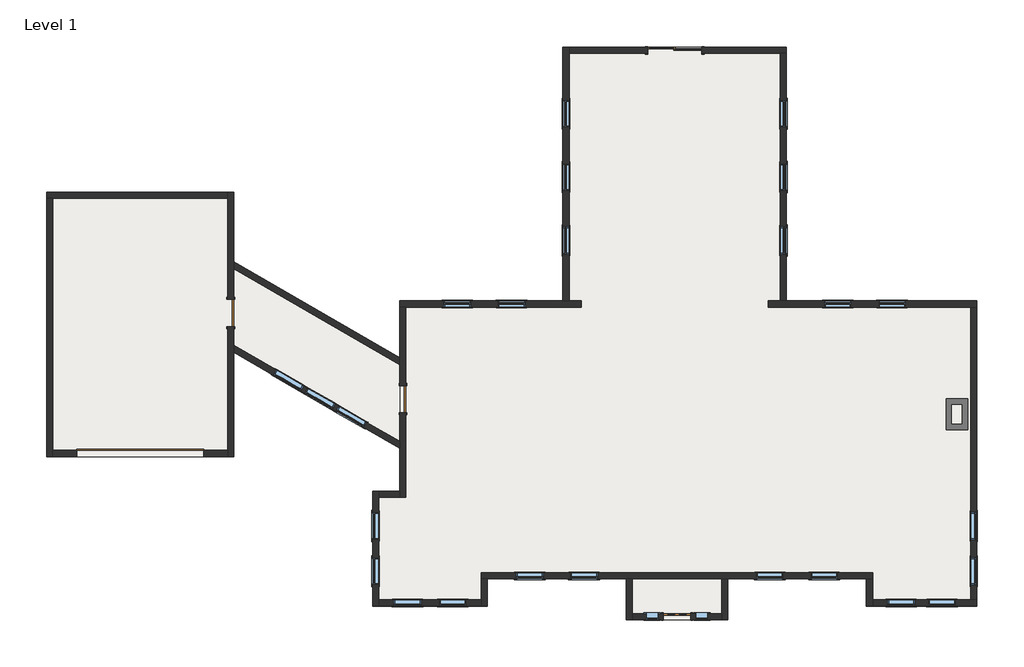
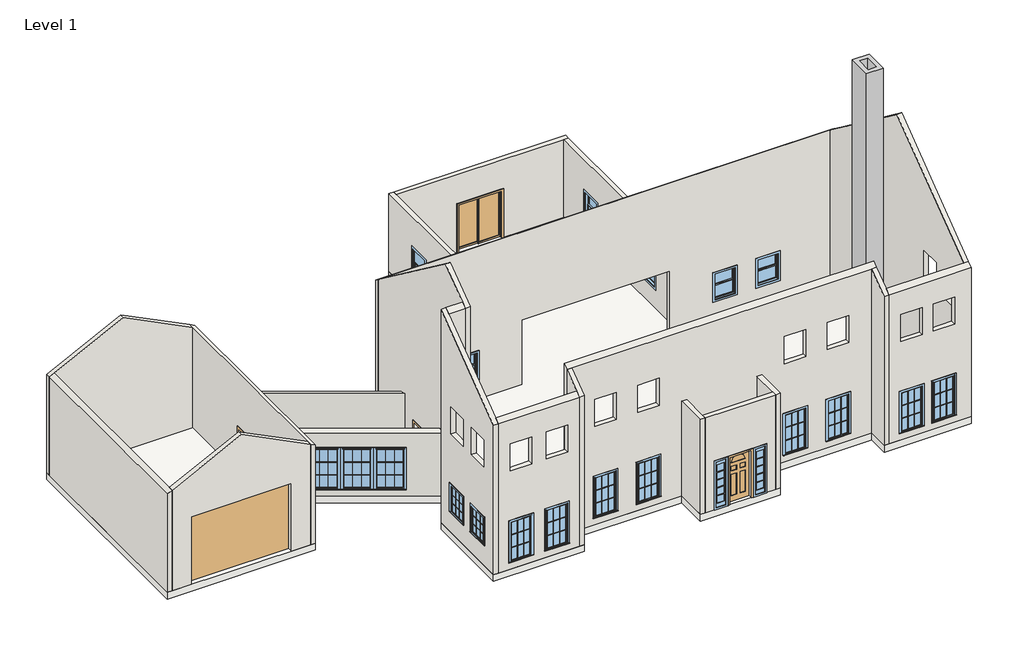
# One storey: 27 windows, 22 walls, 5 doors, 3 slabs, 1 proxy.
"""IFC4 building model written with IfcOpenShell, lengths in millimetres."""

from ifc_helpers import new_model, si_unit, frame, origin, place, context, project, spatial, polyline, outline, extrude, faceted_brep, transform, mapped, element, save
from components import chimney_chimney_af68f421, overhead_sectional_14_x_10_8c0ee61c, door_b1a02c97, door_4f2f89b6, door_f8fd2036, casement_3x3_with_trim_8b323df3, casement_3x3_with_trim_29c06734, casement_3x3_with_trim_7d330b5e, double_hung_with_trim_31198920, window_b28cb548, window_fc224a87

model = new_model("IFC4")

# Units and contexts
model_context = context("Model", 3, world=origin())
ifc_project = project(units=[si_unit("LENGTHUNIT", "METRE", prefix="MILLI")], contexts=[model_context])

# Site, building, storey
site = spatial("IfcSite", under=ifc_project)
building = spatial("IfcBuilding", under=site)
storey = spatial("IfcBuildingStorey", under=building, Name="Level 1", Elevation=0.0)

# Proxy
placement = place(None, origin())
chimney_chimney_shape = chimney_chimney_af68f421(model_context)
element("IfcBuildingElementProxy", 1, Name="chimney : chimney", ObjectType="chimney : chimney", at=placement, inside=storey, context=model_context, shape_type="MappedRepresentation", body=[
    mapped(chimney_chimney_shape, transform((0.0, 0.0, 0.0), x_axis=(1.0, 0.0, 0.0), y_axis=(0.0, 1.0, 0.0), z_axis=(0.0, 0.0, 1.0))),
])

# Doors
overhead_sectional_14_x_10_shape = overhead_sectional_14_x_10_8c0ee61c(model_context)
element("IfcDoor", 2, ObjectType="Overhead Sectional : 14 x 10", at=placement, inside=storey, context=model_context, shape_type="MappedRepresentation", body=[
    mapped(overhead_sectional_14_x_10_shape, transform((-185224.9354666, 11098.6757393, 0.0), x_axis=(-1.0, 0.0, 0.0), y_axis=(0.0, -1.0, 0.0), z_axis=(0.0, 0.0, 1.0))),
])
door_shape = door_b1a02c97(model_context)
element("IfcDoor", 3, ObjectType="Sample Decorative 2 : 36\" x 84\"", at=placement, inside=storey, context=model_context, shape_type="MappedRepresentation", body=[
    mapped(door_shape, transform((-167165.5354666, 5612.2757393, 0.0), x_axis=(1.0, 0.0, 0.0), y_axis=(0.0, 1.0, 0.0), z_axis=(0.0, 0.0, 1.0))),
])
door_2_shape = door_4f2f89b6(model_context)
element("IfcDoor", 4, ObjectType="Sgl Flush : 36\" x 80\"", at=placement, inside=storey, context=model_context, shape_type="MappedRepresentation", body=[
    mapped(door_2_shape, transform((-176385.7354666, 12927.4757393, 0.0), x_axis=(0.0, -1.0, 0.0), y_axis=(1.0, 0.0, 0.0), z_axis=(0.0, 0.0, 1.0))),
])
element("IfcDoor", 5, ObjectType="Sgl Flush : 36\" x 80\"", at=placement, inside=storey, context=model_context, shape_type="MappedRepresentation", body=[
    mapped(door_2_shape, transform((-182176.9354666, 15823.0757393, 0.0), x_axis=(0.0, -1.0, 0.0), y_axis=(1.0, 0.0, 0.0), z_axis=(0.0, 0.0, 1.0))),
])
door_3_shape = door_f8fd2036(model_context)
element("IfcDoor", 6, ObjectType="Sliding-2 panel : 72\" x 84\"", at=placement, inside=storey, context=model_context, shape_type="MappedRepresentation", body=[
    mapped(door_3_shape, transform((-167241.7354666, 24535.2757393, 0.0), x_axis=(1.0, 0.0, 0.0), y_axis=(0.0, 1.0, 0.0), z_axis=(0.0, 0.0, 1.0))),
])

# Slabs
element("IfcSlab", 7, ObjectType="Generic - 12\"", at=placement, inside=storey, context=model_context, shape_type="SweptSolid", body=[
    extrude(outline(polyline([(-188374.5354666, 19887.0757393), (-182075.3354666, 19887.0757393), (-182075.3354666, 10997.0757393), (-188374.5354666, 10997.0757393), (-188374.5354666, 19887.0757393)])), frame((0.0, 0.0, -304.8), z_axis=(0.0, 0.0, 1.0), x_axis=(1.0, 0.0, 0.0)), (0.0, 0.0, 1.0), 304.8),
])
element("IfcSlab", 8, ObjectType="Generic - 12\"", at=placement, inside=storey, context=model_context, shape_type="SweptSolid", body=[
    extrude(outline(polyline([(-182075.3354666, 17548.8854056), (-176487.3354666, 14322.6521013), (-176487.3354666, 11272.3951592), (-182075.3354666, 14498.6284634), (-182075.3354666, 17548.8854056)])), frame((0.0, 0.0, -304.8), z_axis=(0.0, 0.0, 1.0), x_axis=(1.0, 0.0, 0.0)), (0.0, 0.0, 1.0), 304.8),
])
element("IfcSlab", 9, ObjectType="Generic - 12\"", at=placement, inside=storey, context=model_context, shape_type="SweptSolid", body=[
    extrude(outline(polyline([(-171000.9354666, 16229.4757393), (-171000.9354666, 24763.8757393), (-163482.5354666, 24763.8757393), (-163482.5354666, 16229.4757393), (-157081.7354666, 16229.4757393), (-157081.7354666, 5967.8757393), (-160790.1354666, 5967.8757393), (-160790.1354666, 6882.2757393), (-165463.7354666, 6882.2757393), (-165463.7354666, 5510.6757393), (-168867.3354666, 5510.6757393), (-168867.3354666, 6882.2757393), (-173540.9354666, 6882.2757393), (-173540.9354666, 5967.8757393), (-177401.7354666, 5967.8757393), (-177401.7354666, 9828.6757393), (-176487.3354666, 9828.6757393), (-176487.3354666, 16229.4757393), (-171000.9354666, 16229.4757393)])), frame((0.0, 0.0, -304.8), z_axis=(0.0, 0.0, 1.0), x_axis=(1.0, 0.0, 0.0)), (0.0, 0.0, 1.0), 304.8),
])

# Walls
element("IfcWall", 10, ObjectType="Generic - 8\"", at=placement, inside=storey, context=model_context, shape_type="Brep", body=[
    faceted_brep([(-176487.3354666, 16026.2757393, 0.0), (-176284.1354666, 16026.2757393, 0.0), (-170391.3354666, 16026.2757393, 0.0), (-170391.3354666, 16026.2757393, 2895.6), (-164092.1354666, 16026.2757393, 2895.6), (-164092.1354666, 16026.2757393, 0.0), (-157284.9354666, 16026.2757393, 0.0), (-157081.7354666, 16026.2757393, 0.0), (-157081.7354666, 16026.2757393, 6858.0), (-157284.9354666, 16026.2757393, 6858.0), (-176284.1354666, 16026.2757393, 6858.0), (-176487.3354666, 16026.2757393, 6858.0), (-159469.3354666, 16026.2757393, 2133.6), (-159469.3354666, 16026.2757393, 914.4), (-160383.7354666, 16026.2757393, 914.4), (-160383.7354666, 16026.2757393, 2133.6), (-161298.1354666, 16026.2757393, 2133.6), (-161298.1354666, 16026.2757393, 914.4), (-162212.5354666, 16026.2757393, 914.4), (-162212.5354666, 16026.2757393, 2133.6), (-172270.9354666, 16026.2757393, 2133.6), (-172270.9354666, 16026.2757393, 914.4), (-173185.3354666, 16026.2757393, 914.4), (-173185.3354666, 16026.2757393, 2133.6), (-174099.7354666, 16026.2757393, 2133.6), (-174099.7354666, 16026.2757393, 914.4), (-175014.1354666, 16026.2757393, 914.4), (-175014.1354666, 16026.2757393, 2133.6), (-176487.3354666, 16229.4757393, 0.0), (-176487.3354666, 16229.4757393, 6705.6), (-157081.7354666, 16229.4757393, 6705.6), (-157081.7354666, 16229.4757393, 0.0), (-163482.5354666, 16229.4757393, 0.0), (-163685.7354666, 16229.4757393, 0.0), (-164092.1354666, 16229.4757393, 0.0), (-164092.1354666, 16229.4757393, 2895.6), (-170391.3354666, 16229.4757393, 2895.6), (-170391.3354666, 16229.4757393, 0.0), (-170797.7354666, 16229.4757393, 0.0), (-171000.9354666, 16229.4757393, 0.0), (-159469.3354666, 16229.4757393, 2133.6), (-160383.7354666, 16229.4757393, 2133.6), (-160383.7354666, 16229.4757393, 914.4), (-159469.3354666, 16229.4757393, 914.4), (-161298.1354666, 16229.4757393, 2133.6), (-162212.5354666, 16229.4757393, 2133.6), (-162212.5354666, 16229.4757393, 914.4), (-161298.1354666, 16229.4757393, 914.4), (-172270.9354666, 16229.4757393, 2133.6), (-173185.3354666, 16229.4757393, 2133.6), (-173185.3354666, 16229.4757393, 914.4), (-172270.9354666, 16229.4757393, 914.4), (-174099.7354666, 16229.4757393, 2133.6), (-175014.1354666, 16229.4757393, 2133.6), (-175014.1354666, 16229.4757393, 914.4), (-174099.7354666, 16229.4757393, 914.4)], [[[0, 1, 2, 3, 4, 5, 6, 7, 8, 9, 10, 11], [12, 13, 14, 15], [16, 17, 18, 19], [20, 21, 22, 23], [24, 25, 26, 27]], [[28, 29, 30, 31, 32, 33, 34, 35, 36, 37, 38, 39], [40, 41, 42, 43], [44, 45, 46, 47], [48, 49, 50, 51], [52, 53, 54, 55]], [[2, 1, 0, 28, 39, 38, 37]], [[0, 11, 29, 28]], [[3, 2, 37, 36]], [[4, 3, 36, 35]], [[5, 4, 35, 34]], [[7, 6, 5, 34, 33, 32, 31]], [[8, 7, 31, 30]], [[11, 10, 9, 8, 30, 29]], [[13, 12, 40, 43]], [[14, 13, 43, 42]], [[15, 14, 42, 41]], [[12, 15, 41, 40]], [[17, 16, 44, 47]], [[18, 17, 47, 46]], [[19, 18, 46, 45]], [[16, 19, 45, 44]], [[21, 20, 48, 51]], [[22, 21, 51, 50]], [[23, 22, 50, 49]], [[20, 23, 49, 48]], [[25, 24, 52, 55]], [[26, 25, 55, 54]], [[27, 26, 54, 53]], [[24, 27, 53, 52]]]),
])
element("IfcWall", 11, ObjectType="Generic - 8\"", at=placement, inside=storey, context=model_context, shape_type="Brep", body=[
    faceted_brep([(-176284.1354666, 9625.4757393, 0.0), (-176284.1354666, 12470.2757393, 0.0), (-176284.1354666, 12470.2757393, 2032.0), (-176284.1354666, 13384.6757393, 2032.0), (-176284.1354666, 13384.6757393, 0.0), (-176284.1354666, 16026.2757393, 0.0), (-176284.1354666, 16026.2757393, 6858.0), (-176284.1354666, 11098.6757393, 10553.7), (-176284.1354666, 9625.4757393, 9448.8), (-176487.3354666, 12470.2757393, 2032.0), (-176487.3354666, 12470.2757393, 0.0), (-176487.3354666, 11507.0303086, 0.0), (-176487.3354666, 11272.3951592, 0.0), (-176487.3354666, 9828.6757393, 0.0), (-176487.3354666, 9625.4757393, 0.0), (-176487.3354666, 9625.4757393, 9448.8), (-176487.3354666, 9828.6757393, 9601.2), (-176487.3354666, 11098.6757393, 10553.7), (-176487.3354666, 16026.2757393, 6858.0), (-176487.3354666, 16026.2757393, 0.0), (-176487.3354666, 14322.6521013, 0.0), (-176487.3354666, 14088.0169519, 0.0), (-176487.3354666, 13384.6757393, 0.0), (-176487.3354666, 13384.6757393, 2032.0)], [[[0, 1, 2, 3, 4, 5, 6, 7, 8]], [[9, 10, 11, 12, 13, 14, 15, 16, 17, 18, 19, 20, 21, 22, 23]], [[14, 13, 12, 11, 10, 1, 0]], [[22, 21, 20, 19, 5, 4]], [[6, 5, 19, 18]], [[0, 8, 15, 14]], [[8, 7, 17, 16, 15]], [[7, 6, 18, 17]], [[2, 1, 10, 9]], [[3, 2, 9, 23]], [[4, 3, 23, 22]]]),
])
element("IfcWall", 12, ObjectType="Generic - 8\"", at=placement, inside=storey, context=model_context, shape_type="Brep", body=[
    faceted_brep([(-160586.9354666, 7085.4757393, 0.0), (-173744.1354666, 7085.4757393, 0.0), (-173744.1354666, 7085.4757393, 7543.8), (-160586.9354666, 7085.4757393, 7543.8), (-162669.7354666, 7085.4757393, 5638.8), (-162669.7354666, 7085.4757393, 4419.6), (-161755.3354666, 7085.4757393, 4419.6), (-161755.3354666, 7085.4757393, 5638.8), (-164498.5354666, 7085.4757393, 5638.8), (-164498.5354666, 7085.4757393, 4419.6), (-163584.1354666, 7085.4757393, 4419.6), (-163584.1354666, 7085.4757393, 5638.8), (-170746.9354666, 7085.4757393, 5638.8), (-170746.9354666, 7085.4757393, 4419.6), (-169832.5354666, 7085.4757393, 4419.6), (-169832.5354666, 7085.4757393, 5638.8), (-172575.7354666, 7085.4757393, 5638.8), (-172575.7354666, 7085.4757393, 4419.6), (-171661.3354666, 7085.4757393, 4419.6), (-171661.3354666, 7085.4757393, 5638.8), (-162669.7354666, 7085.4757393, 2133.6), (-162669.7354666, 7085.4757393, 304.8), (-161755.3354666, 7085.4757393, 304.8), (-161755.3354666, 7085.4757393, 2133.6), (-164498.5354666, 7085.4757393, 2133.6), (-164498.5354666, 7085.4757393, 304.8), (-163584.1354666, 7085.4757393, 304.8), (-163584.1354666, 7085.4757393, 2133.6), (-170746.9354666, 7085.4757393, 2133.6), (-170746.9354666, 7085.4757393, 304.8), (-169832.5354666, 7085.4757393, 304.8), (-169832.5354666, 7085.4757393, 2133.6), (-172575.7354666, 7085.4757393, 2133.6), (-172575.7354666, 7085.4757393, 304.8), (-171661.3354666, 7085.4757393, 304.8), (-171661.3354666, 7085.4757393, 2133.6), (-160586.9354666, 6882.2757393, 0.0), (-160586.9354666, 6882.2757393, 7391.4), (-160790.1354666, 6882.2757393, 7391.4), (-173540.9354666, 6882.2757393, 7391.4), (-173744.1354666, 6882.2757393, 7391.4), (-173744.1354666, 6882.2757393, 0.0), (-173540.9354666, 6882.2757393, 0.0), (-168867.3354666, 6882.2757393, 0.0), (-168664.1354666, 6882.2757393, 0.0), (-165666.9354666, 6882.2757393, 0.0), (-165463.7354666, 6882.2757393, 0.0), (-160790.1354666, 6882.2757393, 0.0), (-162669.7354666, 6882.2757393, 5638.8), (-161755.3354666, 6882.2757393, 5638.8), (-161755.3354666, 6882.2757393, 4419.6), (-162669.7354666, 6882.2757393, 4419.6), (-164498.5354666, 6882.2757393, 5638.8), (-163584.1354666, 6882.2757393, 5638.8), (-163584.1354666, 6882.2757393, 4419.6), (-164498.5354666, 6882.2757393, 4419.6), (-170746.9354666, 6882.2757393, 5638.8), (-169832.5354666, 6882.2757393, 5638.8), (-169832.5354666, 6882.2757393, 4419.6), (-170746.9354666, 6882.2757393, 4419.6), (-172575.7354666, 6882.2757393, 5638.8), (-171661.3354666, 6882.2757393, 5638.8), (-171661.3354666, 6882.2757393, 4419.6), (-172575.7354666, 6882.2757393, 4419.6), (-162669.7354666, 6882.2757393, 2133.6), (-161755.3354666, 6882.2757393, 2133.6), (-161755.3354666, 6882.2757393, 304.8), (-162669.7354666, 6882.2757393, 304.8), (-164498.5354666, 6882.2757393, 2133.6), (-163584.1354666, 6882.2757393, 2133.6), (-163584.1354666, 6882.2757393, 304.8), (-164498.5354666, 6882.2757393, 304.8), (-170746.9354666, 6882.2757393, 2133.6), (-169832.5354666, 6882.2757393, 2133.6), (-169832.5354666, 6882.2757393, 304.8), (-170746.9354666, 6882.2757393, 304.8), (-172575.7354666, 6882.2757393, 2133.6), (-171661.3354666, 6882.2757393, 2133.6), (-171661.3354666, 6882.2757393, 304.8), (-172575.7354666, 6882.2757393, 304.8)], [[[0, 1, 2, 3], [4, 5, 6, 7], [8, 9, 10, 11], [12, 13, 14, 15], [16, 17, 18, 19], [20, 21, 22, 23], [24, 25, 26, 27], [28, 29, 30, 31], [32, 33, 34, 35]], [[36, 37, 38, 39, 40, 41, 42, 43, 44, 45, 46, 47], [48, 49, 50, 51], [52, 53, 54, 55], [56, 57, 58, 59], [60, 61, 62, 63], [64, 65, 66, 67], [68, 69, 70, 71], [72, 73, 74, 75], [76, 77, 78, 79]], [[1, 0, 36, 47, 46, 45, 44, 43, 42, 41]], [[2, 1, 41, 40]], [[0, 3, 37, 36]], [[3, 2, 40, 39, 38, 37]], [[5, 4, 48, 51]], [[6, 5, 51, 50]], [[7, 6, 50, 49]], [[4, 7, 49, 48]], [[9, 8, 52, 55]], [[10, 9, 55, 54]], [[11, 10, 54, 53]], [[8, 11, 53, 52]], [[13, 12, 56, 59]], [[14, 13, 59, 58]], [[15, 14, 58, 57]], [[12, 15, 57, 56]], [[17, 16, 60, 63]], [[18, 17, 63, 62]], [[19, 18, 62, 61]], [[16, 19, 61, 60]], [[21, 20, 64, 67]], [[22, 21, 67, 66]], [[23, 22, 66, 65]], [[20, 23, 65, 64]], [[25, 24, 68, 71]], [[26, 25, 71, 70]], [[27, 26, 70, 69]], [[24, 27, 69, 68]], [[29, 28, 72, 75]], [[30, 29, 75, 74]], [[31, 30, 74, 73]], [[28, 31, 73, 72]], [[33, 32, 76, 79]], [[34, 33, 79, 78]], [[35, 34, 78, 77]], [[32, 35, 77, 76]]]),
])
element("IfcWall", 13, ObjectType="Generic - 8\"", at=placement, inside=storey, context=model_context, shape_type="Brep", body=[
    faceted_brep([(-177198.5354666, 5967.8757393, 0.0), (-177198.5354666, 6171.0757393, 0.0), (-177198.5354666, 9625.4757393, 0.0), (-177198.5354666, 9828.6757393, 0.0), (-177198.5354666, 9828.6757393, 9601.2), (-177198.5354666, 9625.4757393, 9448.8), (-177198.5354666, 6171.0757393, 6858.0), (-177198.5354666, 5967.8757393, 6705.6), (-177198.5354666, 9117.4757393, 2133.6), (-177198.5354666, 9117.4757393, 914.4), (-177198.5354666, 8203.0757393, 914.4), (-177198.5354666, 8203.0757393, 2133.6), (-177198.5354666, 7593.4757393, 2133.6), (-177198.5354666, 7593.4757393, 914.4), (-177198.5354666, 6679.0757393, 914.4), (-177198.5354666, 6679.0757393, 2133.6), (-177198.5354666, 9117.4757393, 5638.8), (-177198.5354666, 9117.4757393, 4419.6), (-177198.5354666, 8203.0757393, 4419.6), (-177198.5354666, 8203.0757393, 5638.8), (-177198.5354666, 7593.4757393, 5638.8), (-177198.5354666, 7593.4757393, 4419.6), (-177198.5354666, 6679.0757393, 4419.6), (-177198.5354666, 6679.0757393, 5638.8), (-177401.7354666, 5967.8757393, 0.0), (-177401.7354666, 5967.8757393, 6705.6), (-177401.7354666, 9828.6757393, 9601.2), (-177401.7354666, 9828.6757393, 0.0), (-177401.7354666, 9117.4757393, 2133.6), (-177401.7354666, 8203.0757393, 2133.6), (-177401.7354666, 8203.0757393, 914.4), (-177401.7354666, 9117.4757393, 914.4), (-177401.7354666, 7593.4757393, 2133.6), (-177401.7354666, 6679.0757393, 2133.6), (-177401.7354666, 6679.0757393, 914.4), (-177401.7354666, 7593.4757393, 914.4), (-177401.7354666, 9117.4757393, 5638.8), (-177401.7354666, 8203.0757393, 5638.8), (-177401.7354666, 8203.0757393, 4419.6), (-177401.7354666, 9117.4757393, 4419.6), (-177401.7354666, 7593.4757393, 5638.8), (-177401.7354666, 6679.0757393, 5638.8), (-177401.7354666, 6679.0757393, 4419.6), (-177401.7354666, 7593.4757393, 4419.6)], [[[0, 1, 2, 3, 4, 5, 6, 7], [8, 9, 10, 11], [12, 13, 14, 15], [16, 17, 18, 19], [20, 21, 22, 23]], [[24, 25, 26, 27], [28, 29, 30, 31], [32, 33, 34, 35], [36, 37, 38, 39], [40, 41, 42, 43]], [[3, 2, 1, 0, 24, 27]], [[4, 3, 27, 26]], [[0, 7, 25, 24]], [[7, 6, 5, 4, 26, 25]], [[9, 8, 28, 31]], [[10, 9, 31, 30]], [[11, 10, 30, 29]], [[8, 11, 29, 28]], [[13, 12, 32, 35]], [[14, 13, 35, 34]], [[15, 14, 34, 33]], [[12, 15, 33, 32]], [[17, 16, 36, 39]], [[18, 17, 39, 38]], [[19, 18, 38, 37]], [[16, 19, 37, 36]], [[21, 20, 40, 43]], [[22, 21, 43, 42]], [[23, 22, 42, 41]], [[20, 23, 41, 40]]]),
])
element("IfcWall", 14, ObjectType="Generic - 8\"", at=placement, inside=storey, context=model_context, shape_type="SweptSolid", body=[
    extrude(outline(polyline([(9625.4757393, 0.0), (9625.4757393, 9448.8), (9828.6757393, 9601.2), (9828.6757393, 0.0), (9625.4757393, 0.0)])), frame((-177198.5354666, 0.0, 0.0), z_axis=(1.0, 0.0, 0.0), x_axis=(0.0, 1.0, 0.0)), (0.0, 0.0, 1.0), 711.2),
])
element("IfcWall", 15, ObjectType="Generic - 8\"", at=placement, inside=storey, context=model_context, shape_type="SweptSolid", body=[
    extrude(outline(polyline([(16026.2757393, 0.0), (6171.0757393, 0.0), (6171.0757393, 6858.0), (11098.6757393, 10553.7), (16026.2757393, 6858.0), (16026.2757393, 0.0)]), holes=[polyline([(8203.0757393, 2133.6), (8203.0757393, 914.4), (9117.4757393, 914.4), (9117.4757393, 2133.6), (8203.0757393, 2133.6)]), polyline([(6679.0757393, 2133.6), (6679.0757393, 914.4), (7593.4757393, 914.4), (7593.4757393, 2133.6), (6679.0757393, 2133.6)]), polyline([(8203.0757393, 5638.8), (8203.0757393, 4419.6), (9117.4757393, 4419.6), (9117.4757393, 5638.8), (8203.0757393, 5638.8)]), polyline([(6679.0757393, 5638.8), (6679.0757393, 4419.6), (7593.4757393, 4419.6), (7593.4757393, 5638.8), (6679.0757393, 5638.8)])]), frame((-157284.9354666, 0.0, 0.0), z_axis=(1.0, 0.0, 0.0), x_axis=(0.0, 1.0, 0.0)), (0.0, 0.0, 1.0), 203.2),
])
element("IfcWall", 16, ObjectType="Generic - 8\"", at=placement, inside=storey, context=model_context, shape_type="Brep", body=[
    faceted_brep([(-173744.1354666, 6882.2757393, 0.0), (-173744.1354666, 6171.0757393, 0.0), (-173744.1354666, 5967.8757393, 0.0), (-173744.1354666, 5967.8757393, 6705.6), (-173744.1354666, 6171.0757393, 6858.0), (-173744.1354666, 6882.2757393, 7391.4), (-173540.9354666, 6882.2757393, 0.0), (-173540.9354666, 6882.2757393, 7391.4), (-173540.9354666, 5967.8757393, 6705.6), (-173540.9354666, 5967.8757393, 0.0)], [[[0, 1, 2, 3, 4, 5]], [[6, 7, 8, 9]], [[2, 1, 0, 6, 9]], [[3, 2, 9, 8]], [[0, 5, 7, 6]], [[5, 4, 3, 8, 7]]]),
])
element("IfcWall", 17, ObjectType="Generic - 8\"", at=placement, inside=storey, context=model_context, shape_type="Brep", body=[
    faceted_brep([(-173744.1354666, 6171.0757393, 0.0), (-177198.5354666, 6171.0757393, 0.0), (-177198.5354666, 6171.0757393, 6858.0), (-173744.1354666, 6171.0757393, 6858.0), (-175166.5354666, 6171.0757393, 5638.8), (-175166.5354666, 6171.0757393, 4419.6), (-174252.1354666, 6171.0757393, 4419.6), (-174252.1354666, 6171.0757393, 5638.8), (-176690.5354666, 6171.0757393, 5638.8), (-176690.5354666, 6171.0757393, 4419.6), (-175776.1354666, 6171.0757393, 4419.6), (-175776.1354666, 6171.0757393, 5638.8), (-175166.5354666, 6171.0757393, 2133.6), (-175166.5354666, 6171.0757393, 304.8), (-174252.1354666, 6171.0757393, 304.8), (-174252.1354666, 6171.0757393, 2133.6), (-176690.5354666, 6171.0757393, 2133.6), (-176690.5354666, 6171.0757393, 304.8), (-175776.1354666, 6171.0757393, 304.8), (-175776.1354666, 6171.0757393, 2133.6), (-173744.1354666, 5967.8757393, 0.0), (-173744.1354666, 5967.8757393, 6705.6), (-177198.5354666, 5967.8757393, 6705.6), (-177198.5354666, 5967.8757393, 0.0), (-175166.5354666, 5967.8757393, 5638.8), (-174252.1354666, 5967.8757393, 5638.8), (-174252.1354666, 5967.8757393, 4419.6), (-175166.5354666, 5967.8757393, 4419.6), (-176690.5354666, 5967.8757393, 5638.8), (-175776.1354666, 5967.8757393, 5638.8), (-175776.1354666, 5967.8757393, 4419.6), (-176690.5354666, 5967.8757393, 4419.6), (-175166.5354666, 5967.8757393, 2133.6), (-174252.1354666, 5967.8757393, 2133.6), (-174252.1354666, 5967.8757393, 304.8), (-175166.5354666, 5967.8757393, 304.8), (-176690.5354666, 5967.8757393, 2133.6), (-175776.1354666, 5967.8757393, 2133.6), (-175776.1354666, 5967.8757393, 304.8), (-176690.5354666, 5967.8757393, 304.8)], [[[0, 1, 2, 3], [4, 5, 6, 7], [8, 9, 10, 11], [12, 13, 14, 15], [16, 17, 18, 19]], [[20, 21, 22, 23], [24, 25, 26, 27], [28, 29, 30, 31], [32, 33, 34, 35], [36, 37, 38, 39]], [[1, 0, 20, 23]], [[0, 3, 21, 20]], [[2, 1, 23, 22]], [[3, 2, 22, 21]], [[5, 4, 24, 27]], [[6, 5, 27, 26]], [[7, 6, 26, 25]], [[4, 7, 25, 24]], [[9, 8, 28, 31]], [[10, 9, 31, 30]], [[11, 10, 30, 29]], [[8, 11, 29, 28]], [[13, 12, 32, 35]], [[14, 13, 35, 34]], [[15, 14, 34, 33]], [[12, 15, 33, 32]], [[17, 16, 36, 39]], [[18, 17, 39, 38]], [[19, 18, 38, 37]], [[16, 19, 37, 36]]]),
])
element("IfcWall", 18, ObjectType="Generic - 8\"", at=placement, inside=storey, context=model_context, shape_type="Brep", body=[
    faceted_brep([(-160790.1354666, 6882.2757393, 0.0), (-160790.1354666, 5967.8757393, 0.0), (-160790.1354666, 5967.8757393, 6705.6), (-160790.1354666, 6882.2757393, 7391.4), (-160586.9354666, 6882.2757393, 0.0), (-160586.9354666, 6882.2757393, 7391.4), (-160586.9354666, 6171.0757393, 6858.0), (-160586.9354666, 5967.8757393, 6705.6), (-160586.9354666, 5967.8757393, 0.0), (-160586.9354666, 6171.0757393, 0.0)], [[[0, 1, 2, 3]], [[4, 5, 6, 7, 8, 9]], [[1, 0, 4, 9, 8]], [[2, 1, 8, 7]], [[0, 3, 5, 4]], [[3, 2, 7, 6, 5]]]),
])
element("IfcWall", 19, ObjectType="Generic - 8\"", at=placement, inside=storey, context=model_context, shape_type="Brep", body=[
    faceted_brep([(-160586.9354666, 5967.8757393, 0.0), (-157081.7354666, 5967.8757393, 0.0), (-157081.7354666, 5967.8757393, 6705.6), (-160586.9354666, 5967.8757393, 6705.6), (-158707.3354666, 5967.8757393, 5638.8), (-157792.9354666, 5967.8757393, 5638.8), (-157792.9354666, 5967.8757393, 4419.6), (-158707.3354666, 5967.8757393, 4419.6), (-160078.9354666, 5967.8757393, 5638.8), (-159164.5354666, 5967.8757393, 5638.8), (-159164.5354666, 5967.8757393, 4419.6), (-160078.9354666, 5967.8757393, 4419.6), (-158707.3354666, 5967.8757393, 2133.6), (-157792.9354666, 5967.8757393, 2133.6), (-157792.9354666, 5967.8757393, 304.8), (-158707.3354666, 5967.8757393, 304.8), (-160078.9354666, 5967.8757393, 2133.6), (-159164.5354666, 5967.8757393, 2133.6), (-159164.5354666, 5967.8757393, 304.8), (-160078.9354666, 5967.8757393, 304.8), (-160586.9354666, 6171.0757393, 0.0), (-160586.9354666, 6171.0757393, 6858.0), (-157284.9354666, 6171.0757393, 6858.0), (-157081.7354666, 6171.0757393, 6858.0), (-157081.7354666, 6171.0757393, 0.0), (-157284.9354666, 6171.0757393, 0.0), (-158707.3354666, 6171.0757393, 5638.8), (-158707.3354666, 6171.0757393, 4419.6), (-157792.9354666, 6171.0757393, 4419.6), (-157792.9354666, 6171.0757393, 5638.8), (-160078.9354666, 6171.0757393, 5638.8), (-160078.9354666, 6171.0757393, 4419.6), (-159164.5354666, 6171.0757393, 4419.6), (-159164.5354666, 6171.0757393, 5638.8), (-158707.3354666, 6171.0757393, 2133.6), (-158707.3354666, 6171.0757393, 304.8), (-157792.9354666, 6171.0757393, 304.8), (-157792.9354666, 6171.0757393, 2133.6), (-160078.9354666, 6171.0757393, 2133.6), (-160078.9354666, 6171.0757393, 304.8), (-159164.5354666, 6171.0757393, 304.8), (-159164.5354666, 6171.0757393, 2133.6)], [[[0, 1, 2, 3], [4, 5, 6, 7], [8, 9, 10, 11], [12, 13, 14, 15], [16, 17, 18, 19]], [[20, 21, 22, 23, 24, 25], [26, 27, 28, 29], [30, 31, 32, 33], [34, 35, 36, 37], [38, 39, 40, 41]], [[1, 0, 20, 25, 24]], [[0, 3, 21, 20]], [[2, 1, 24, 23]], [[3, 2, 23, 22, 21]], [[27, 26, 4, 7]], [[28, 27, 7, 6]], [[29, 28, 6, 5]], [[26, 29, 5, 4]], [[31, 30, 8, 11]], [[32, 31, 11, 10]], [[33, 32, 10, 9]], [[30, 33, 9, 8]], [[35, 34, 12, 15]], [[36, 35, 15, 14]], [[37, 36, 14, 13]], [[34, 37, 13, 12]], [[39, 38, 16, 19]], [[40, 39, 19, 18]], [[41, 40, 18, 17]], [[38, 41, 17, 16]]]),
])
element("IfcWall", 20, ObjectType="Generic - 8\"", at=placement, inside=storey, context=model_context, shape_type="Brep", body=[
    faceted_brep([(-168867.3354666, 6882.2757393, 0.0), (-168867.3354666, 5510.6757393, 0.0), (-168867.3354666, 5510.6757393, 4267.2), (-168867.3354666, 6882.2757393, 4267.2), (-168664.1354666, 6882.2757393, 0.0), (-168664.1354666, 6882.2757393, 4267.2), (-168664.1354666, 5713.8757393, 4267.2), (-168664.1354666, 5510.6757393, 4267.2), (-168664.1354666, 5510.6757393, 0.0), (-168664.1354666, 5713.8757393, 0.0)], [[[0, 1, 2, 3]], [[4, 5, 6, 7, 8, 9]], [[1, 0, 4, 9, 8]], [[3, 2, 7, 6, 5]], [[2, 1, 8, 7]], [[0, 3, 5, 4]]]),
])
element("IfcWall", 21, ObjectType="Generic - 8\"", at=placement, inside=storey, context=model_context, shape_type="Brep", body=[
    faceted_brep([(-165666.9354666, 6882.2757393, 0.0), (-165666.9354666, 5713.8757393, 0.0), (-165666.9354666, 5510.6757393, 0.0), (-165666.9354666, 5510.6757393, 4267.2), (-165666.9354666, 5713.8757393, 4267.2), (-165666.9354666, 6882.2757393, 4267.2), (-165463.7354666, 6882.2757393, 0.0), (-165463.7354666, 6882.2757393, 4267.2), (-165463.7354666, 5510.6757393, 4267.2), (-165463.7354666, 5510.6757393, 0.0)], [[[0, 1, 2, 3, 4, 5]], [[6, 7, 8, 9]], [[2, 1, 0, 6, 9]], [[5, 4, 3, 8, 7]], [[3, 2, 9, 8]], [[0, 5, 7, 6]]]),
])
element("IfcWall", 22, ObjectType="Generic - 8\"", at=placement, inside=storey, context=model_context, shape_type="SweptSolid", body=[
    extrude(outline(polyline([(0.0, -166708.3354666), (0.0, -166530.5354666), (2133.6, -166530.5354666), (2133.6, -166124.1354666), (0.0, -166124.1354666), (0.0, -165666.9354666), (4267.2, -165666.9354666), (4267.2, -168664.1354666), (0.0, -168664.1354666), (0.0, -168206.9354666), (2133.6, -168206.9354666), (2133.6, -167800.5354666), (0.0, -167800.5354666), (0.0, -167622.7354666), (2133.6, -167622.7354666), (2133.6, -166708.3354666), (0.0, -166708.3354666)])), frame((0.0, 5510.6757393, 0.0), z_axis=(0.0, 1.0, 0.0), x_axis=(0.0, 0.0, 1.0)), (0.0, 0.0, 1.0), 203.2),
])
element("IfcWall", 23, ObjectType="Generic - 8\"", at=placement, inside=storey, context=model_context, shape_type="Brep", body=[
    faceted_brep([(-170797.7354666, 16229.4757393, 3505.2), (-170797.7354666, 24560.6757393, 3505.2), (-170797.7354666, 24763.8757393, 3505.2), (-171000.9354666, 24763.8757393, 3505.2), (-171000.9354666, 16229.4757393, 3505.2), (-170797.7354666, 16229.4757393, 0.0), (-170797.7354666, 24560.6757393, 0.0), (-170797.7354666, 24763.8757393, 0.0), (-170797.7354666, 22985.8757393, 2133.6), (-170797.7354666, 22985.8757393, 914.4), (-170797.7354666, 22071.4757393, 914.4), (-170797.7354666, 22071.4757393, 2133.6), (-170797.7354666, 20852.2757393, 2133.6), (-170797.7354666, 20852.2757393, 914.4), (-170797.7354666, 19937.8757393, 914.4), (-170797.7354666, 19937.8757393, 2133.6), (-170797.7354666, 18718.6757393, 2133.6), (-170797.7354666, 18718.6757393, 914.4), (-170797.7354666, 17804.2757393, 914.4), (-170797.7354666, 17804.2757393, 2133.6), (-171000.9354666, 16229.4757393, 0.0), (-171000.9354666, 24763.8757393, 0.0), (-171000.9354666, 22985.8757393, 2133.6), (-171000.9354666, 22071.4757393, 2133.6), (-171000.9354666, 22071.4757393, 914.4), (-171000.9354666, 22985.8757393, 914.4), (-171000.9354666, 20852.2757393, 2133.6), (-171000.9354666, 19937.8757393, 2133.6), (-171000.9354666, 19937.8757393, 914.4), (-171000.9354666, 20852.2757393, 914.4), (-171000.9354666, 18718.6757393, 2133.6), (-171000.9354666, 17804.2757393, 2133.6), (-171000.9354666, 17804.2757393, 914.4), (-171000.9354666, 18718.6757393, 914.4)], [[[0, 1, 2, 3, 4]], [[5, 6, 7, 2, 1, 0], [8, 9, 10, 11], [12, 13, 14, 15], [16, 17, 18, 19]], [[20, 4, 3, 21], [22, 23, 24, 25], [26, 27, 28, 29], [30, 31, 32, 33]], [[7, 6, 5, 20, 21]], [[5, 0, 4, 20]], [[2, 7, 21, 3]], [[9, 8, 22, 25]], [[10, 9, 25, 24]], [[11, 10, 24, 23]], [[8, 11, 23, 22]], [[13, 12, 26, 29]], [[14, 13, 29, 28]], [[15, 14, 28, 27]], [[12, 15, 27, 26]], [[17, 16, 30, 33]], [[18, 17, 33, 32]], [[19, 18, 32, 31]], [[16, 19, 31, 30]]]),
])
element("IfcWall", 24, ObjectType="Generic - 8\"", at=placement, inside=storey, context=model_context, shape_type="Brep", body=[
    faceted_brep([(-170797.7354666, 24560.6757393, 3505.2), (-163685.7354666, 24560.6757393, 3505.2), (-163482.5354666, 24560.6757393, 3505.2), (-163482.5354666, 24763.8757393, 3505.2), (-170797.7354666, 24763.8757393, 3505.2), (-166327.3354666, 24560.6757393, 2133.6), (-166327.3354666, 24560.6757393, 0.0), (-163685.7354666, 24560.6757393, 0.0), (-163482.5354666, 24560.6757393, 0.0), (-170797.7354666, 24560.6757393, 0.0), (-168156.1354666, 24560.6757393, 0.0), (-168156.1354666, 24560.6757393, 2133.6), (-163482.5354666, 24763.8757393, 0.0), (-166327.3354666, 24763.8757393, 0.0), (-166327.3354666, 24763.8757393, 2133.6), (-168156.1354666, 24763.8757393, 2133.6), (-168156.1354666, 24763.8757393, 0.0), (-170797.7354666, 24763.8757393, 0.0)], [[[0, 1, 2, 3, 4]], [[5, 6, 7, 8, 2, 1, 0, 9, 10, 11]], [[12, 13, 14, 15, 16, 17, 4, 3]], [[8, 7, 6, 13, 12]], [[10, 9, 17, 16]], [[9, 0, 4, 17]], [[2, 8, 12, 3]], [[16, 15, 11, 10]], [[14, 13, 6, 5]], [[15, 14, 5, 11]]]),
])
element("IfcWall", 25, ObjectType="Generic - 8\"", at=placement, inside=storey, context=model_context, shape_type="SweptSolid", body=[
    extrude(outline(polyline([(16229.4757393, 0.0), (16229.4757393, 3505.2), (24560.6757393, 3505.2), (24560.6757393, 0.0), (16229.4757393, 0.0)]), holes=[polyline([(17804.2757393, 2133.6), (17804.2757393, 914.4), (18718.6757393, 914.4), (18718.6757393, 2133.6), (17804.2757393, 2133.6)]), polyline([(19937.8757393, 2133.6), (19937.8757393, 914.4), (20852.2757393, 914.4), (20852.2757393, 2133.6), (19937.8757393, 2133.6)]), polyline([(22071.4757393, 2133.6), (22071.4757393, 914.4), (22985.8757393, 914.4), (22985.8757393, 2133.6), (22071.4757393, 2133.6)])]), frame((-163685.7354666, 0.0, 0.0), z_axis=(1.0, 0.0, 0.0), x_axis=(0.0, 1.0, 0.0)), (0.0, 0.0, 1.0), 203.2),
])
element("IfcWall", 26, ObjectType="Generic - 8\"", at=placement, inside=storey, context=model_context, shape_type="Brep", body=[
    faceted_brep([(-188374.5354666, 19683.8757393, 0.0), (-188171.3354666, 19683.8757393, 0.0), (-182278.5354666, 19683.8757393, 0.0), (-182278.5354666, 19683.8757393, 4521.2), (-185224.9354666, 19683.8757393, 5994.4), (-188171.3354666, 19683.8757393, 4521.2), (-188374.5354666, 19683.8757393, 4419.6), (-188374.5354666, 19887.0757393, 0.0), (-188374.5354666, 19887.0757393, 4419.6), (-185224.9354666, 19887.0757393, 5994.4), (-182278.5354666, 19887.0757393, 4521.2), (-182278.5354666, 19887.0757393, 0.0)], [[[0, 1, 2, 3, 4, 5, 6]], [[7, 8, 9, 10, 11]], [[2, 1, 0, 7, 11]], [[0, 6, 8, 7]], [[3, 2, 11, 10]], [[6, 5, 4, 9, 8]], [[4, 3, 10, 9]]]),
])
element("IfcWall", 27, ObjectType="Generic - 8\"", at=placement, inside=storey, context=model_context, shape_type="Brep", body=[
    faceted_brep([(-188171.3354666, 10997.0757393, 0.0), (-188171.3354666, 11200.2757393, 0.0), (-188171.3354666, 19683.8757393, 0.0), (-188171.3354666, 19683.8757393, 4521.2), (-188171.3354666, 11200.2757393, 4521.2), (-188171.3354666, 10997.0757393, 4521.2), (-188374.5354666, 10997.0757393, 0.0), (-188374.5354666, 10997.0757393, 4419.6), (-188374.5354666, 19683.8757393, 4419.6), (-188374.5354666, 19683.8757393, 0.0)], [[[0, 1, 2, 3, 4, 5]], [[6, 7, 8, 9]], [[2, 1, 0, 6, 9]], [[0, 5, 7, 6]], [[3, 2, 9, 8]], [[5, 4, 3, 8, 7]]]),
])
element("IfcWall", 28, ObjectType="Generic - 8\"", at=placement, inside=storey, context=model_context, shape_type="SweptSolid", body=[
    extrude(outline(polyline([(0.0, -188171.3354666), (0.0, -187358.5354666), (3048.0, -187358.5354666), (3048.0, -183091.3354666), (0.0, -183091.3354666), (0.0, -182278.5354666), (4521.2, -182278.5354666), (5994.4, -185224.9354666), (4521.2, -188171.3354666), (0.0, -188171.3354666)])), frame((0.0, 10997.0757393, 0.0), z_axis=(0.0, 1.0, 0.0), x_axis=(0.0, 0.0, 1.0)), (0.0, 0.0, 1.0), 203.2),
])
element("IfcWall", 29, ObjectType="Generic - 8\"", at=placement, inside=storey, context=model_context, shape_type="Brep", body=[
    faceted_brep([(-182278.5354666, 15365.8757393, 2032.0), (-182278.5354666, 15365.8757393, 0.0), (-182278.5354666, 11200.2757393, 0.0), (-182278.5354666, 10997.0757393, 0.0), (-182278.5354666, 10997.0757393, 4521.2), (-182278.5354666, 11200.2757393, 4521.2), (-182278.5354666, 19683.8757393, 4521.2), (-182278.5354666, 19887.0757393, 4521.2), (-182278.5354666, 19887.0757393, 0.0), (-182278.5354666, 19683.8757393, 0.0), (-182278.5354666, 16280.2757393, 0.0), (-182278.5354666, 16280.2757393, 2032.0), (-182075.3354666, 10997.0757393, 0.0), (-182075.3354666, 14498.6284634, 0.0), (-182075.3354666, 14733.2636128, 0.0), (-182075.3354666, 15365.8757393, 0.0), (-182075.3354666, 15365.8757393, 2032.0), (-182075.3354666, 16280.2757393, 2032.0), (-182075.3354666, 16280.2757393, 0.0), (-182075.3354666, 17314.2502562, 0.0), (-182075.3354666, 17548.8854056, 0.0), (-182075.3354666, 19887.0757393, 0.0), (-182075.3354666, 19887.0757393, 4419.6), (-182075.3354666, 10997.0757393, 4419.6)], [[[0, 1, 2, 3, 4, 5, 6, 7, 8, 9, 10, 11]], [[12, 13, 14, 15, 16, 17, 18, 19, 20, 21, 22, 23]], [[3, 2, 1, 15, 14, 13, 12]], [[10, 9, 8, 21, 20, 19, 18]], [[8, 7, 22, 21]], [[4, 3, 12, 23]], [[7, 6, 5, 4, 23, 22]], [[16, 15, 1, 0]], [[17, 16, 0, 11]], [[18, 17, 11, 10]]]),
])
element("IfcWall", 30, ObjectType="Generic - 8\"", at=placement, inside=storey, context=model_context, shape_type="Brep", body=[
    faceted_brep([(-176487.3354666, 14322.6521013, 0.0), (-182075.3354666, 17548.8854056, 0.0), (-182075.3354666, 17548.8854056, 2850.8499433), (-176487.3354666, 14322.6521013, 2850.8499433), (-176487.3354666, 14088.0169519, 0.0), (-176487.3354666, 14088.0169519, 2903.1013718), (-182075.3354666, 17314.2502562, 2903.1013718), (-182075.3354666, 17314.2502562, 0.0)], [[[0, 1, 2, 3]], [[4, 5, 6, 7]], [[1, 0, 4, 7]], [[0, 3, 5, 4]], [[2, 1, 7, 6]], [[3, 2, 6, 5]]]),
])
element("IfcWall", 31, ObjectType="Generic - 8\"", at=placement, inside=storey, context=model_context, shape_type="Brep", body=[
    faceted_brep([(-176487.3354666, 11507.0303086, 0.0), (-182075.3354666, 14733.2636128, 0.0), (-182075.3354666, 14733.2636128, 2903.1013718), (-176487.3354666, 11507.0303086, 2903.1013718), (-178535.1154909, 12689.3166568, 2133.6), (-178535.1154909, 12689.3166568, 304.8), (-177611.2395902, 12155.9166568, 304.8), (-177611.2395902, 12155.9166568, 2133.6), (-179590.9736632, 13298.9166568, 2133.6), (-179590.9736632, 13298.9166568, 304.8), (-178667.0977625, 12765.5166568, 304.8), (-178667.0977625, 12765.5166568, 2133.6), (-180646.8318355, 13908.5166568, 2133.6), (-180646.8318355, 13908.5166568, 304.8), (-179722.9559347, 13375.1166568, 304.8), (-179722.9559347, 13375.1166568, 2133.6), (-176487.3354666, 11272.3951592, 0.0), (-176487.3354666, 11272.3951592, 2850.8499433), (-182075.3354666, 14498.6284634, 2850.8499433), (-182075.3354666, 14498.6284634, 0.0), (-178636.7154909, 12513.3402948, 2133.6), (-177712.8395902, 11979.9402948, 2133.6), (-177712.8395902, 11979.9402948, 304.8), (-178636.7154909, 12513.3402948, 304.8), (-179692.5736632, 13122.9402948, 2133.6), (-178768.6977625, 12589.5402948, 2133.6), (-178768.6977625, 12589.5402948, 304.8), (-179692.5736632, 13122.9402948, 304.8), (-180748.4318355, 13732.5402948, 2133.6), (-179824.5559347, 13199.1402948, 2133.6), (-179824.5559347, 13199.1402948, 304.8), (-180748.4318355, 13732.5402948, 304.8)], [[[0, 1, 2, 3], [4, 5, 6, 7], [8, 9, 10, 11], [12, 13, 14, 15]], [[16, 17, 18, 19], [20, 21, 22, 23], [24, 25, 26, 27], [28, 29, 30, 31]], [[1, 0, 16, 19]], [[0, 3, 17, 16]], [[2, 1, 19, 18]], [[3, 2, 18, 17]], [[5, 4, 20, 23]], [[6, 5, 23, 22]], [[7, 6, 22, 21]], [[4, 7, 21, 20]], [[9, 8, 24, 27]], [[10, 9, 27, 26]], [[11, 10, 26, 25]], [[8, 11, 25, 24]], [[13, 12, 28, 31]], [[14, 13, 31, 30]], [[15, 14, 30, 29]], [[12, 15, 29, 28]]]),
])

# Windows
casement_3x3_with_trim_shape = casement_3x3_with_trim_8b323df3(model_context)
element("IfcWindow", 32, ObjectType="Casement 3x3 with Trim : 36\"w x 72\"h", at=placement, inside=storey, context=model_context, shape_type="MappedRepresentation", body=[
    mapped(casement_3x3_with_trim_shape, transform((-176233.3354666, 6069.4757393, 0.0), x_axis=(-1.0, 0.0, 0.0), y_axis=(0.0, -1.0, 0.0), z_axis=(0.0, 0.0, 1.0))),
])
element("IfcWindow", 33, ObjectType="Casement 3x3 with Trim : 36\"w x 72\"h", at=placement, inside=storey, context=model_context, shape_type="MappedRepresentation", body=[
    mapped(casement_3x3_with_trim_shape, transform((-174709.3354666, 6069.4757393, 0.0), x_axis=(-1.0, 0.0, 0.0), y_axis=(0.0, -1.0, 0.0), z_axis=(0.0, 0.0, 1.0))),
])
element("IfcWindow", 34, ObjectType="Casement 3x3 with Trim : 36\"w x 72\"h", at=placement, inside=storey, context=model_context, shape_type="MappedRepresentation", body=[
    mapped(casement_3x3_with_trim_shape, transform((-159621.7354666, 6069.4757393, 0.0), x_axis=(-1.0, 0.0, 0.0), y_axis=(0.0, -1.0, 0.0), z_axis=(0.0, 0.0, 1.0))),
])
element("IfcWindow", 35, ObjectType="Casement 3x3 with Trim : 36\"w x 72\"h", at=placement, inside=storey, context=model_context, shape_type="MappedRepresentation", body=[
    mapped(casement_3x3_with_trim_shape, transform((-158250.1354666, 6069.4757393, 0.0), x_axis=(-1.0, 0.0, 0.0), y_axis=(0.0, -1.0, 0.0), z_axis=(0.0, 0.0, 1.0))),
])
element("IfcWindow", 36, ObjectType="Casement 3x3 with Trim : 36\"w x 72\"h", at=placement, inside=storey, context=model_context, shape_type="MappedRepresentation", body=[
    mapped(casement_3x3_with_trim_shape, transform((-172118.5354666, 6983.8757393, 0.0), x_axis=(-1.0, 0.0, 0.0), y_axis=(0.0, -1.0, 0.0), z_axis=(0.0, 0.0, 1.0))),
])
element("IfcWindow", 37, ObjectType="Casement 3x3 with Trim : 36\"w x 72\"h", at=placement, inside=storey, context=model_context, shape_type="MappedRepresentation", body=[
    mapped(casement_3x3_with_trim_shape, transform((-170289.7354666, 6983.8757393, 0.0), x_axis=(-1.0, 0.0, 0.0), y_axis=(0.0, -1.0, 0.0), z_axis=(0.0, 0.0, 1.0))),
])
element("IfcWindow", 38, ObjectType="Casement 3x3 with Trim : 36\"w x 72\"h", at=placement, inside=storey, context=model_context, shape_type="MappedRepresentation", body=[
    mapped(casement_3x3_with_trim_shape, transform((-164041.3354666, 6983.8757393, 0.0), x_axis=(-1.0, 0.0, 0.0), y_axis=(0.0, -1.0, 0.0), z_axis=(0.0, 0.0, 1.0))),
])
element("IfcWindow", 39, ObjectType="Casement 3x3 with Trim : 36\"w x 72\"h", at=placement, inside=storey, context=model_context, shape_type="MappedRepresentation", body=[
    mapped(casement_3x3_with_trim_shape, transform((-162212.5354666, 6983.8757393, 0.0), x_axis=(-1.0, 0.0, 0.0), y_axis=(0.0, -1.0, 0.0), z_axis=(0.0, 0.0, 1.0))),
])
casement_3x3_with_trim_2_shape = casement_3x3_with_trim_29c06734(model_context)
element("IfcWindow", 40, ObjectType="Casement 3x3 with Trim : 36\"w x 48\"h", at=placement, inside=storey, context=model_context, shape_type="MappedRepresentation", body=[
    mapped(casement_3x3_with_trim_2_shape, transform((-177300.1354666, 7136.2757393, 0.0), x_axis=(0.0, 1.0, 0.0), y_axis=(-1.0, 0.0, 0.0), z_axis=(0.0, 0.0, 1.0))),
])
element("IfcWindow", 41, ObjectType="Casement 3x3 with Trim : 36\"w x 48\"h", at=placement, inside=storey, context=model_context, shape_type="MappedRepresentation", body=[
    mapped(casement_3x3_with_trim_2_shape, transform((-177300.1354666, 8660.2757393, 0.0), x_axis=(0.0, 1.0, 0.0), y_axis=(-1.0, 0.0, 0.0), z_axis=(0.0, 0.0, 1.0))),
])
element("IfcWindow", 42, ObjectType="Casement 3x3 with Trim : 36\"w x 48\"h", at=placement, inside=storey, context=model_context, shape_type="MappedRepresentation", body=[
    mapped(casement_3x3_with_trim_2_shape, transform((-157183.3354666, 7136.2757393, 0.0), x_axis=(0.0, -1.0, 0.0), y_axis=(1.0, 0.0, 0.0), z_axis=(0.0, 0.0, 1.0))),
])
element("IfcWindow", 43, ObjectType="Casement 3x3 with Trim : 36\"w x 48\"h", at=placement, inside=storey, context=model_context, shape_type="MappedRepresentation", body=[
    mapped(casement_3x3_with_trim_2_shape, transform((-157183.3354666, 8660.2757393, 0.0), x_axis=(0.0, -1.0, 0.0), y_axis=(1.0, 0.0, 0.0), z_axis=(0.0, 0.0, 1.0))),
])
casement_3x3_with_trim_3_shape = casement_3x3_with_trim_7d330b5e(model_context)
element("IfcWindow", 44, ObjectType="Casement 3x3 with Trim : 48\"w x 72\"h", at=placement, inside=storey, context=model_context, shape_type="MappedRepresentation", body=[
    mapped(casement_3x3_with_trim_3_shape, transform((-180235.6938851, 13553.8284758, 0.0), x_axis=(-0.8660254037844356, 0.5000000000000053, 0.0), y_axis=(-0.5000000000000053, -0.8660254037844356, 0.0), z_axis=(0.0, 0.0, 1.0))),
])
element("IfcWindow", 45, ObjectType="Casement 3x3 with Trim : 48\"w x 72\"h", at=placement, inside=storey, context=model_context, shape_type="MappedRepresentation", body=[
    mapped(casement_3x3_with_trim_3_shape, transform((-179179.8357128, 12944.2284758, 0.0), x_axis=(-0.8660254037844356, 0.5000000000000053, 0.0), y_axis=(-0.5000000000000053, -0.8660254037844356, 0.0), z_axis=(0.0, 0.0, 1.0))),
])
element("IfcWindow", 46, ObjectType="Casement 3x3 with Trim : 48\"w x 72\"h", at=placement, inside=storey, context=model_context, shape_type="MappedRepresentation", body=[
    mapped(casement_3x3_with_trim_3_shape, transform((-178123.9775405, 12334.6284758, 0.0), x_axis=(-0.8660254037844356, 0.5000000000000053, 0.0), y_axis=(-0.5000000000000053, -0.8660254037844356, 0.0), z_axis=(0.0, 0.0, 1.0))),
])
double_hung_with_trim_shape = double_hung_with_trim_31198920(model_context)
element("IfcWindow", 47, ObjectType="Double Hung with Trim : 36\"w x 48\"h", at=placement, inside=storey, context=model_context, shape_type="MappedRepresentation", body=[
    mapped(double_hung_with_trim_shape, transform((-174556.9354666, 16127.8757393, 0.0), x_axis=(1.0, 0.0, 0.0), y_axis=(0.0, 1.0, 0.0), z_axis=(0.0, 0.0, 1.0))),
])
element("IfcWindow", 48, ObjectType="Double Hung with Trim : 36\"w x 48\"h", at=placement, inside=storey, context=model_context, shape_type="MappedRepresentation", body=[
    mapped(double_hung_with_trim_shape, transform((-172728.1354666, 16127.8757393, 0.0), x_axis=(1.0, 0.0, 0.0), y_axis=(0.0, 1.0, 0.0), z_axis=(0.0, 0.0, 1.0))),
])
element("IfcWindow", 49, ObjectType="Double Hung with Trim : 36\"w x 48\"h", at=placement, inside=storey, context=model_context, shape_type="MappedRepresentation", body=[
    mapped(double_hung_with_trim_shape, transform((-161755.3354666, 16127.8757393, 0.0), x_axis=(1.0, 0.0, 0.0), y_axis=(0.0, 1.0, 0.0), z_axis=(0.0, 0.0, 1.0))),
])
element("IfcWindow", 50, ObjectType="Double Hung with Trim : 36\"w x 48\"h", at=placement, inside=storey, context=model_context, shape_type="MappedRepresentation", body=[
    mapped(double_hung_with_trim_shape, transform((-159926.5354666, 16127.8757393, 0.0), x_axis=(1.0, 0.0, 0.0), y_axis=(0.0, 1.0, 0.0), z_axis=(0.0, 0.0, 1.0))),
])
element("IfcWindow", 51, ObjectType="Double Hung with Trim : 36\"w x 48\"h", at=placement, inside=storey, context=model_context, shape_type="MappedRepresentation", body=[
    mapped(double_hung_with_trim_shape, transform((-170899.3354666, 18261.4757393, 0.0), x_axis=(0.0, 1.0, 0.0), y_axis=(-1.0, 0.0, 0.0), z_axis=(0.0, 0.0, 1.0))),
])
element("IfcWindow", 52, ObjectType="Double Hung with Trim : 36\"w x 48\"h", at=placement, inside=storey, context=model_context, shape_type="MappedRepresentation", body=[
    mapped(double_hung_with_trim_shape, transform((-170899.3354666, 20395.0757393, 0.0), x_axis=(0.0, 1.0, 0.0), y_axis=(-1.0, 0.0, 0.0), z_axis=(0.0, 0.0, 1.0))),
])
element("IfcWindow", 53, ObjectType="Double Hung with Trim : 36\"w x 48\"h", at=placement, inside=storey, context=model_context, shape_type="MappedRepresentation", body=[
    mapped(double_hung_with_trim_shape, transform((-170899.3354666, 22528.6757393, 0.0), x_axis=(0.0, 1.0, 0.0), y_axis=(-1.0, 0.0, 0.0), z_axis=(0.0, 0.0, 1.0))),
])
element("IfcWindow", 54, ObjectType="Double Hung with Trim : 36\"w x 48\"h", at=placement, inside=storey, context=model_context, shape_type="MappedRepresentation", body=[
    mapped(double_hung_with_trim_shape, transform((-163584.1354666, 22528.6757393, 0.0), x_axis=(0.0, -1.0, 0.0), y_axis=(1.0, 0.0, 0.0), z_axis=(0.0, 0.0, 1.0))),
])
element("IfcWindow", 55, ObjectType="Double Hung with Trim : 36\"w x 48\"h", at=placement, inside=storey, context=model_context, shape_type="MappedRepresentation", body=[
    mapped(double_hung_with_trim_shape, transform((-163584.1354666, 20395.0757393, 0.0), x_axis=(0.0, -1.0, 0.0), y_axis=(1.0, 0.0, 0.0), z_axis=(0.0, 0.0, 1.0))),
])
element("IfcWindow", 56, ObjectType="Double Hung with Trim : 36\"w x 48\"h", at=placement, inside=storey, context=model_context, shape_type="MappedRepresentation", body=[
    mapped(double_hung_with_trim_shape, transform((-163584.1354666, 18261.4757393, 0.0), x_axis=(0.0, -1.0, 0.0), y_axis=(1.0, 0.0, 0.0), z_axis=(0.0, 0.0, 1.0))),
])
window_shape = window_b28cb548(model_context)
element("IfcWindow", 57, ObjectType="Sidelights 1 : 16\" x 84\"", at=placement, inside=storey, context=model_context, shape_type="MappedRepresentation", body=[
    mapped(window_shape, transform((-168257.7354666, 5612.2757393, 0.0), x_axis=(1.0, 0.0, 0.0), y_axis=(0.0, 1.0, 0.0), z_axis=(0.0, 0.0, 1.0))),
])
window_2_shape = window_fc224a87(model_context)
element("IfcWindow", 58, ObjectType="Sidelights 1 : 16\" x 84\"", at=placement, inside=storey, context=model_context, shape_type="MappedRepresentation", body=[
    mapped(window_2_shape, transform((-166073.3354666, 5612.2757393, 0.0), x_axis=(-1.0, 0.0, 0.0), y_axis=(0.0, -1.0, 0.0), z_axis=(0.0, 0.0, 1.0))),
])

save(model, "model.ifc")
